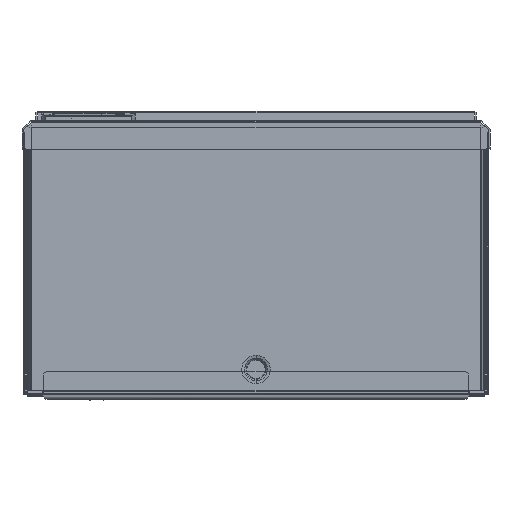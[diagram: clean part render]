
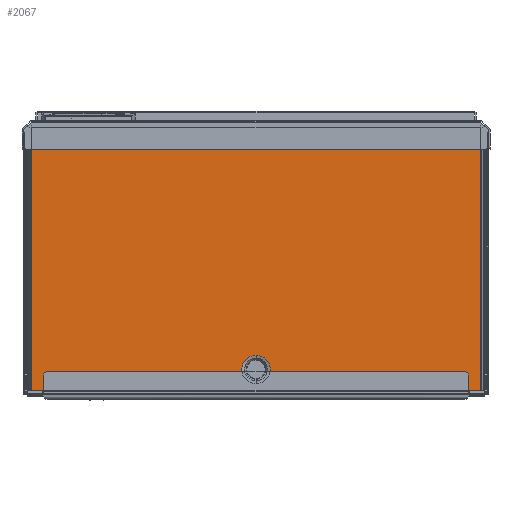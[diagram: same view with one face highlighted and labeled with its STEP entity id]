
A CAD part, front view. The second image highlights one B-rep face of the part: STEP entity #2067.
In plain terms, the highlighted planar face has unit normal (0, -1, 0).
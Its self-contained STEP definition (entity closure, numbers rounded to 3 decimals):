
#2067=ADVANCED_FACE('',(#4829,#2832),#36765,.T.);
#2832=FACE_BOUND('',#7591,.T.);
#4829=FACE_OUTER_BOUND('',#7590,.T.);
#7590=EDGE_LOOP('',(#19069,#19070,#19071,#19072,#19073,#19074));
#7591=EDGE_LOOP('',(#19075,#19076));
#19069=ORIENTED_EDGE('',*,*,#25028,.F.);
#19070=ORIENTED_EDGE('',*,*,#25029,.F.);
#19071=ORIENTED_EDGE('',*,*,#25030,.F.);
#19072=ORIENTED_EDGE('',*,*,#25031,.F.);
#19073=ORIENTED_EDGE('',*,*,#25032,.F.);
#19074=ORIENTED_EDGE('',*,*,#25033,.F.);
#19075=ORIENTED_EDGE('',*,*,#25038,.F.);
#19076=ORIENTED_EDGE('',*,*,#25019,.F.);
#25019=EDGE_CURVE('',#34730,#34731,#25517,.T.);
#25028=EDGE_CURVE('',#34738,#34739,#30895,.T.);
#25029=EDGE_CURVE('',#34740,#34738,#30896,.T.);
#25030=EDGE_CURVE('',#34741,#34740,#30897,.T.);
#25031=EDGE_CURVE('',#34742,#34741,#30898,.T.);
#25032=EDGE_CURVE('',#34743,#34742,#30899,.T.);
#25033=EDGE_CURVE('',#34739,#34743,#30900,.T.);
#25038=EDGE_CURVE('',#34731,#34730,#25520,.T.);
#25517=(
BOUNDED_CURVE()
B_SPLINE_CURVE(2,(#63280,#63281,#63282,#63283,#63284),.UNSPECIFIED.,.F.,
 .F.)
B_SPLINE_CURVE_WITH_KNOTS((3,2,3),(0.,19.231,38.461),
 .UNSPECIFIED.)
CURVE()
GEOMETRIC_REPRESENTATION_ITEM()
RATIONAL_B_SPLINE_CURVE((1.,0.707,1.,0.707,1.))
REPRESENTATION_ITEM('')
);
#25520=(
BOUNDED_CURVE()
B_SPLINE_CURVE(2,(#63323,#63324,#63325,#63326,#63327),.UNSPECIFIED.,.F.,
 .F.)
B_SPLINE_CURVE_WITH_KNOTS((3,2,3),(0.,19.231,38.461),
 .UNSPECIFIED.)
CURVE()
GEOMETRIC_REPRESENTATION_ITEM()
RATIONAL_B_SPLINE_CURVE((1.,0.707,1.,0.707,1.))
REPRESENTATION_ITEM('')
);
#30895=B_SPLINE_CURVE_WITH_KNOTS('',1,(#63303,#63304),.UNSPECIFIED.,.F.,
 .F.,(2,2),(-227.5,0.),.UNSPECIFIED.);
#30896=B_SPLINE_CURVE_WITH_KNOTS('',1,(#63305,#63306),.UNSPECIFIED.,.F.,
 .F.,(2,2),(-387.5,0.),.UNSPECIFIED.);
#30897=B_SPLINE_CURVE_WITH_KNOTS('',1,(#63307,#63308),.UNSPECIFIED.,.F.,
 .F.,(2,2),(-227.5,0.),.UNSPECIFIED.);
#30898=B_SPLINE_CURVE_WITH_KNOTS('',1,(#63309,#63310),.UNSPECIFIED.,.F.,
 .F.,(2,2),(-9.75,0.),.UNSPECIFIED.);
#30899=B_SPLINE_CURVE_WITH_KNOTS('',1,(#63311,#63312),.UNSPECIFIED.,.F.,
 .F.,(2,2),(-368.,0.),.UNSPECIFIED.);
#30900=B_SPLINE_CURVE_WITH_KNOTS('',1,(#63313,#63314),.UNSPECIFIED.,.F.,
 .F.,(2,2),(-9.75,0.),.UNSPECIFIED.);
#34730=VERTEX_POINT('',#63175);
#34731=VERTEX_POINT('',#63176);
#34738=VERTEX_POINT('',#63183);
#34739=VERTEX_POINT('',#63184);
#34740=VERTEX_POINT('',#63185);
#34741=VERTEX_POINT('',#63186);
#34742=VERTEX_POINT('',#63187);
#34743=VERTEX_POINT('',#63188);
#36765=PLANE('',#38783);
#38783=AXIS2_PLACEMENT_3D('',#62792,#40797,$);
#40797=DIRECTION('',(0.,-1.,0.));
#62792=CARTESIAN_POINT('',(-179.377,-507.375,-7.496));
#63175=CARTESIAN_POINT('',(53.123,-507.375,45.747));
#63176=CARTESIAN_POINT('',(53.123,-507.375,21.262));
#63183=CARTESIAN_POINT('',(246.873,-507.375,242.755));
#63184=CARTESIAN_POINT('',(246.873,-507.375,15.255));
#63185=CARTESIAN_POINT('',(-140.627,-507.375,242.755));
#63186=CARTESIAN_POINT('',(-140.627,-507.375,15.255));
#63187=CARTESIAN_POINT('',(-130.877,-507.375,15.255));
#63188=CARTESIAN_POINT('',(237.123,-507.375,15.255));
#63280=CARTESIAN_POINT('',(53.123,-507.375,45.747));
#63281=CARTESIAN_POINT('',(40.881,-507.375,45.747));
#63282=CARTESIAN_POINT('',(40.881,-507.375,33.505));
#63283=CARTESIAN_POINT('',(40.881,-507.375,21.262));
#63284=CARTESIAN_POINT('',(53.123,-507.375,21.262));
#63303=CARTESIAN_POINT('',(246.873,-507.375,242.755));
#63304=CARTESIAN_POINT('',(246.873,-507.375,15.255));
#63305=CARTESIAN_POINT('',(-140.627,-507.375,242.755));
#63306=CARTESIAN_POINT('',(246.873,-507.375,242.755));
#63307=CARTESIAN_POINT('',(-140.627,-507.375,15.255));
#63308=CARTESIAN_POINT('',(-140.627,-507.375,242.755));
#63309=CARTESIAN_POINT('',(-130.877,-507.375,15.255));
#63310=CARTESIAN_POINT('',(-140.627,-507.375,15.255));
#63311=CARTESIAN_POINT('',(237.123,-507.375,15.255));
#63312=CARTESIAN_POINT('',(-130.877,-507.375,15.255));
#63313=CARTESIAN_POINT('',(246.873,-507.375,15.255));
#63314=CARTESIAN_POINT('',(237.123,-507.375,15.255));
#63323=CARTESIAN_POINT('',(53.123,-507.375,21.262));
#63324=CARTESIAN_POINT('',(65.366,-507.375,21.262));
#63325=CARTESIAN_POINT('',(65.366,-507.375,33.505));
#63326=CARTESIAN_POINT('',(65.366,-507.375,45.747));
#63327=CARTESIAN_POINT('',(53.123,-507.375,45.747));
